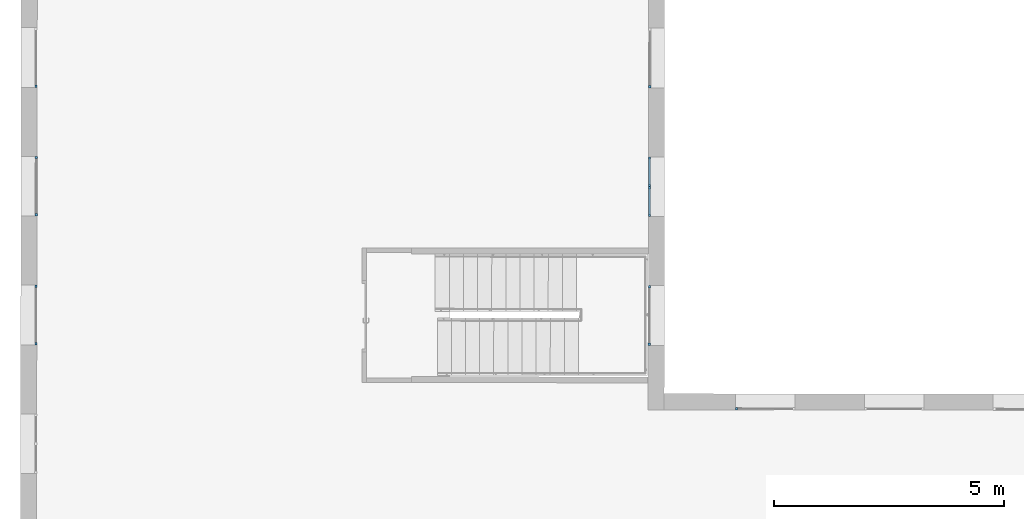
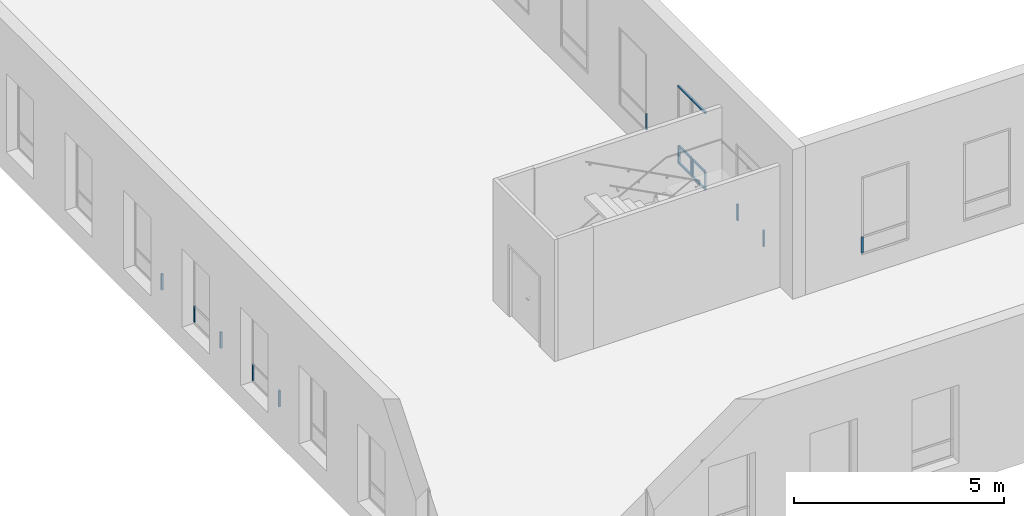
# One storey, part 15 of 35: 19 members, 8 elements without a shape of their own.
"""IFC2X3 building model written with IfcOpenShell, lengths in metres."""

from ifc_helpers import new_model, entity, si_unit, converted_unit, derived_unit, direction, frame, frame_2d, origin, origin_2d_with_axis, place, context, subcontext, project, spatial, rectangle, extrude, source, transform, mapped, material, type_object, type_shapes, element, aggregate, save


model = new_model("IFC2X3")

# Units and contexts
model_context = context("Model", 3, precision=1e-05, world=origin(), true_north=direction((6.123233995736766e-17, 1.0)))
body_context = subcontext(model_context, "Body", "Model", "MODEL_VIEW")
ifc_project = project(units=[si_unit("LENGTHUNIT", "METRE"), si_unit("AREAUNIT", "SQUARE_METRE"), converted_unit("PLANEANGLEUNIT", "DEGREE", entity("IfcPlaneAngleMeasure", 0.017453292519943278), si_unit("PLANEANGLEUNIT", "RADIAN"), dimensions=[0, 0, 0, 0, 0, 0, 0]), derived_unit("THERMALTRANSMITTANCEUNIT", [(si_unit("MASSUNIT", "GRAM", prefix="KILO"), 1), (si_unit("THERMODYNAMICTEMPERATUREUNIT", "KELVIN"), -1), (si_unit("TIMEUNIT", "SECOND"), -3)])], contexts=[model_context])

# Site, building, storey
site_placement = place(None, frame((1253.6752467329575, 2072.143113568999, 91.49999999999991), z_axis=(0.0, 0.0, 1.0), x_axis=(0.7237211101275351, 0.6900925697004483, 0.0)))
site = spatial("IfcSite", under=ifc_project, at=site_placement, Name="Surface", CompositionType="ELEMENT")
building_placement = place(site_placement, origin())
building = spatial("IfcBuilding", under=site, at=building_placement, CompositionType="ELEMENT")
storey_placement = place(building_placement, frame((0.0, 0.0, 3.549999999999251)))
storey = spatial("IfcBuildingStorey", under=building, at=storey_placement, Name="1-R+1", CompositionType="ELEMENT", Elevation=3.549999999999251)

# Curtain wall, member
curtain_wall_type = type_object("IfcCurtainWallType", Name="Mur-rideau:Menuiserie Ext 1F+1OB VERTIC", PredefinedType="NOTDEFINED")
curtain_wall_1_placement = place(storey_placement, frame((0.0, 0.0, -3.549999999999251)))
curtain_wall_1 = element("IfcCurtainWall", 1, at=curtain_wall_1_placement, inside=storey, type_object=curtain_wall_type, Name="Mur-rideau:Menuiserie Ext 1F+1OB VERTIC", ObjectType="Mur-rideau:Menuiserie Ext 1F+1OB VERTIC")
ifc_material = material(Name="OMD_Aluminium Men Ext")
member_type_1 = type_object("IfcMemberType", Name="Meneau rectangulaire:50x50", PredefinedType="MULLION", material=ifc_material)
shared_shape_1 = source(origin(), body_context, "Body", "SweptSolid", [
    extrude(rectangle(XDim=0.05, YDim=0.049999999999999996, at=origin_2d_with_axis()), frame((-0.025, 0.0, -0.4699999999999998), z_axis=(0.0, 0.0, 1.0), x_axis=(-1.0, 0.0, 0.0)), (0.0, 0.0, 1.0), 0.4699999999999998),
])
type_shapes(member_type_1, [shared_shape_1])
member_1_placement = place(curtain_wall_1_placement, frame((151.8210219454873, 12.235292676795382, 4.219999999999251), z_axis=(0.0, 0.0, -1.0), x_axis=(0.6911544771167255, 0.7227070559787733, 0.0)))
member_1 = element("IfcMember", 2, at=member_1_placement, type_object=member_type_1, material=ifc_material, Name="Meneau rectangulaire:50x50", ObjectType="Meneau rectangulaire:50x50", context=body_context, shape_type="MappedRepresentation", body=[
    mapped(shared_shape_1, transform((0.0, 0.0, 0.0), scale=1.0)),
])

curtain_wall_2_placement = place(storey_placement, frame((0.0, 0.0, -3.549999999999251)))
curtain_wall_2 = element("IfcCurtainWall", 3, at=curtain_wall_2_placement, inside=storey, type_object=curtain_wall_type, Name="Mur-rideau:Menuiserie Ext 1F+1OB VERTIC", ObjectType="Mur-rideau:Menuiserie Ext 1F+1OB VERTIC")
member_2_placement = place(curtain_wall_2_placement, frame((153.75577662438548, 14.25932931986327, 4.219999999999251), z_axis=(0.0, 0.0, -1.0), x_axis=(0.6911544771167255, 0.7227070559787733, 0.0)))
member_2 = element("IfcMember", 4, at=member_2_placement, type_object=member_type_1, material=ifc_material, Name="Meneau rectangulaire:50x50", ObjectType="Meneau rectangulaire:50x50", context=body_context, shape_type="MappedRepresentation", body=[
    mapped(shared_shape_1, transform((0.0, 0.0, 0.0), scale=1.0)),
])

curtain_wall_3_placement = place(storey_placement, frame((0.0, 0.0, -3.549999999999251)))
curtain_wall_3 = element("IfcCurtainWall", 5, at=curtain_wall_3_placement, inside=storey, type_object=curtain_wall_type, Name="Mur-rideau:Menuiserie Ext 1F+1OB VERTIC", ObjectType="Mur-rideau:Menuiserie Ext 1F+1OB VERTIC")
member_3_placement = place(curtain_wall_3_placement, frame((160.97019545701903, -0.2053462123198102, 4.219999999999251), z_axis=(0.0, 0.0, -1.0), x_axis=(-0.7228702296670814, 0.6909838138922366, 0.0)))
member_3 = element("IfcMember", 6, at=member_3_placement, type_object=member_type_1, material=ifc_material, Name="Meneau rectangulaire:50x50", ObjectType="Meneau rectangulaire:50x50", context=body_context, shape_type="MappedRepresentation", body=[
    mapped(shared_shape_1, transform((0.0, 0.0, 0.0), scale=1.0)),
])
aggregate(curtain_wall_3, [member_3])

# Member
member_type_2 = type_object("IfcMemberType", Name="Meneau rectangulaire:50x50", PredefinedType="MULLION", material=ifc_material)
shared_shape_2 = source(origin(), body_context, "Body", "SweptSolid", [
    extrude(rectangle(XDim=0.05, YDim=0.049999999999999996, at=origin_2d_with_axis()), frame((-0.025, 0.0, -0.4699999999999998), z_axis=(0.0, 0.0, 1.0), x_axis=(-1.0, 0.0, 0.0)), (0.0, 0.0, 1.0), 0.4699999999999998),
])
type_shapes(member_type_2, [shared_shape_2])
member_4_placement = place(curtain_wall_1_placement, frame((150.92273130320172, 11.295993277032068, 4.689999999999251), z_axis=(0.0, 0.0, 1.0), x_axis=(-0.6911544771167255, -0.7227070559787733, 0.0)))
member_4 = element("IfcMember", 7, at=member_4_placement, type_object=member_type_2, material=ifc_material, Name="Meneau rectangulaire:50x50", ObjectType="Meneau rectangulaire:50x50", context=body_context, shape_type="MappedRepresentation", body=[
    mapped(shared_shape_2, transform((0.0, 0.0, 0.0), scale=1.0)),
])

aggregate(curtain_wall_1, [member_1, member_4])

member_5_placement = place(curtain_wall_2_placement, frame((152.85748598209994, 13.320029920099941, 4.689999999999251), z_axis=(0.0, 0.0, 1.0), x_axis=(-0.6911544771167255, -0.7227070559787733, 0.0)))
member_5 = element("IfcMember", 8, at=member_5_placement, type_object=member_type_2, material=ifc_material, Name="Meneau rectangulaire:50x50", ObjectType="Meneau rectangulaire:50x50", context=body_context, shape_type="MappedRepresentation", body=[
    mapped(shared_shape_2, transform((0.0, 0.0, 0.0), scale=1.0)),
])

aggregate(curtain_wall_2, [member_2, member_5])

# Curtain wall, member
curtain_wall_4_placement = place(storey_placement, frame((0.0, 0.0, -3.549999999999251)))
curtain_wall_4 = element("IfcCurtainWall", 9, at=curtain_wall_4_placement, inside=storey, type_object=curtain_wall_type, Name="Mur-rideau:Menuiserie Ext 1F+1OB VERTIC", ObjectType="Mur-rideau:Menuiserie Ext 1F+1OB VERTIC")
member_6_placement = place(curtain_wall_4_placement, frame((154.78668807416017, 15.349381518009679, 4.689999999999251), z_axis=(0.0, 0.0, 1.0), x_axis=(-0.6911544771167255, -0.7227070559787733, 0.0)))
member_6 = element("IfcMember", 10, at=member_6_placement, type_object=member_type_2, material=ifc_material, Name="Meneau rectangulaire:50x50", ObjectType="Meneau rectangulaire:50x50", context=body_context, shape_type="MappedRepresentation", body=[
    mapped(shared_shape_2, transform((0.0, 0.0, 0.0), scale=1.0)),
])
aggregate(curtain_wall_4, [member_6])

curtain_wall_5_placement = place(storey_placement, frame((0.0, 0.0, -3.549999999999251)))
curtain_wall_5 = element("IfcCurtainWall", 11, at=curtain_wall_5_placement, inside=storey, type_object=curtain_wall_type, Name="Mur-rideau:Menuiserie Ext 1F+1OB VERTIC", ObjectType="Mur-rideau:Menuiserie Ext 1F+1OB VERTIC")
member_type_3 = type_object("IfcMemberType", Name="Meneau rectangulaire:50x50", PredefinedType="MULLION", material=ifc_material)
shared_shape_3 = source(origin(), body_context, "Body", "SweptSolid", [
    extrude(rectangle(XDim=0.05, YDim=0.049999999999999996, at=origin_2d_with_axis()), frame((-0.025, 0.0, -0.4699999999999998), z_axis=(0.0, 0.0, 1.0), x_axis=(-1.0, 0.0, 0.0)), (0.0, 0.0, 1.0), 0.4699999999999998),
])
type_shapes(member_type_3, [shared_shape_3])
member_7_placement = place(curtain_wall_5_placement, frame((161.46536443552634, 3.0218530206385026, 4.219999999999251), z_axis=(0.0, 0.0, -1.0), x_axis=(0.6909838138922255, 0.722870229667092, 0.0)))
member_7 = element("IfcMember", 12, at=member_7_placement, type_object=member_type_3, material=ifc_material, Name="Meneau rectangulaire:50x50", ObjectType="Meneau rectangulaire:50x50", context=body_context, shape_type="MappedRepresentation", body=[
    mapped(shared_shape_3, transform((0.0, 0.0, 0.0), scale=1.0)),
])

curtain_wall_6_placement = place(storey_placement, frame((0.0, 0.0, -3.549999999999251)))
curtain_wall_6 = element("IfcCurtainWall", 13, at=curtain_wall_6_placement, inside=storey, type_object=curtain_wall_type, Name="Mur-rideau:Menuiserie Ext 1F+1OB VERTIC", ObjectType="Mur-rideau:Menuiserie Ext 1F+1OB VERTIC")
member_8_placement = place(curtain_wall_6_placement, frame((162.95097963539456, 4.576024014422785, 4.219999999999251), z_axis=(0.0, 0.0, -1.0), x_axis=(0.6909838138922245, 0.722870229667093, 0.0)))
member_8 = element("IfcMember", 14, at=member_8_placement, type_object=member_type_3, material=ifc_material, Name="Meneau rectangulaire:50x50", ObjectType="Meneau rectangulaire:50x50", context=body_context, shape_type="MappedRepresentation", body=[
    mapped(shared_shape_3, transform((0.0, 0.0, 0.0), scale=1.0)),
])

curtain_wall_7_placement = place(storey_placement, frame((0.0, 0.0, -3.549999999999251)))
curtain_wall_7 = element("IfcCurtainWall", 15, at=curtain_wall_7_placement, inside=storey, type_object=curtain_wall_type, Name="Mur-rideau:Menuiserie Ext 1F+1OB VERTIC", ObjectType="Mur-rideau:Menuiserie Ext 1F+1OB VERTIC")
member_type_4 = type_object("IfcMemberType", Name="Meneau rectangulaire:50x50", PredefinedType="MULLION", material=ifc_material)
shared_shape_4 = source(origin(), body_context, "Body", "SweptSolid", [
    extrude(rectangle(XDim=0.05, YDim=0.05000000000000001, at=origin_2d_with_axis()), frame((-0.025, 0.0, -0.4699999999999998), z_axis=(0.0, 0.0, 1.0), x_axis=(-1.0, 0.0, 0.0)), (0.0, 0.0, 1.0), 0.4699999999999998),
])
type_shapes(member_type_4, [shared_shape_4])
member_9_placement = place(curtain_wall_7_placement, frame((164.43680496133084, 6.130414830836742, 4.689999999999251), z_axis=(0.0, 0.0, 1.0), x_axis=(-0.6909838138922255, -0.722870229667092, 0.0)))
member_9 = element("IfcMember", 16, at=member_9_placement, type_object=member_type_4, material=ifc_material, Name="Meneau rectangulaire:50x50", ObjectType="Meneau rectangulaire:50x50", context=body_context, shape_type="MappedRepresentation", body=[
    mapped(shared_shape_4, transform((0.0, 0.0, 0.0), scale=1.0)),
])
aggregate(curtain_wall_7, [member_9])

# Member
member_10_placement = place(curtain_wall_5_placement, frame((160.56729560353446, 2.0823415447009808, 4.689999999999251), z_axis=(0.0, 0.0, 1.0), x_axis=(-0.6909838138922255, -0.722870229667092, 0.0)))
member_10 = element("IfcMember", 17, at=member_10_placement, type_object=member_type_4, material=ifc_material, Name="Meneau rectangulaire:50x50", ObjectType="Meneau rectangulaire:50x50", context=body_context, shape_type="MappedRepresentation", body=[
    mapped(shared_shape_4, transform((0.0, 0.0, 0.0), scale=1.0)),
])

aggregate(curtain_wall_5, [member_7, member_10])

member_11_placement = place(curtain_wall_6_placement, frame((162.50205028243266, 4.106378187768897, 4.689999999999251), z_axis=(0.0, 0.0, 1.0), x_axis=(-0.6909838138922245, -0.722870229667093, 0.0)))
member_11 = element("IfcMember", 18, at=member_11_placement, type_object=member_type_4, material=ifc_material, Name="Meneau rectangulaire:50x50", ObjectType="Meneau rectangulaire:50x50", context=body_context, shape_type="MappedRepresentation", body=[
    mapped(shared_shape_4, transform((0.0, 0.0, 0.0), scale=1.0)),
])

member_type_5 = type_object("IfcMemberType", Name="Meneau rectangulaire:50x50", PredefinedType="MULLION", material=ifc_material)
shared_shape_5 = source(origin(), body_context, "Body", "SweptSolid", [
    extrude(rectangle(XDim=0.05, YDim=0.05000000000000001, at=origin_2d_with_axis()), frame((-0.025, 0.0, -0.6496959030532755), z_axis=(0.0, 0.0, 1.0), x_axis=(-1.0, 0.0, 0.0)), (0.0, 0.0, 1.0), 0.6496959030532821),
])
type_shapes(member_type_5, [shared_shape_5])
member_12_placement = place(curtain_wall_6_placement, frame((162.95097963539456, 4.576024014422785, 6.4499999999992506), z_axis=(0.6909838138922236, 0.7228702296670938, 0.0), x_axis=(0.0, 0.0, 1.0)))
member_12 = element("IfcMember", 19, at=member_12_placement, type_object=member_type_5, material=ifc_material, Name="Meneau rectangulaire:50x50", ObjectType="Meneau rectangulaire:50x50", context=body_context, shape_type="MappedRepresentation", body=[
    mapped(shared_shape_5, transform((0.0, 0.0, 0.0), scale=1.0)),
])

member_type_6 = type_object("IfcMemberType", Name="Meneau rectangulaire:50x50", PredefinedType="MULLION", material=ifc_material)
shared_shape_6 = source(origin(), body_context, "Body", "SweptSolid", [
    extrude(rectangle(XDim=0.05, YDim=0.05, at=origin_2d_with_axis()), frame((-0.025, 0.0, -0.6496959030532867), z_axis=(0.0, 0.0, 1.0), x_axis=(-1.0, 0.0, 0.0)), (0.0, 0.0, 1.0), 0.6496959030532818),
])
type_shapes(member_type_6, [shared_shape_6])
member_13_placement = place(curtain_wall_6_placement, frame((162.50205028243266, 4.106378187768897, 4.169999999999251), z_axis=(-0.6909838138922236, -0.7228702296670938, 0.0), x_axis=(0.0, 0.0, -1.0)))
member_13 = element("IfcMember", 20, at=member_13_placement, type_object=member_type_6, material=ifc_material, Name="Meneau rectangulaire:50x50", ObjectType="Meneau rectangulaire:50x50", context=body_context, shape_type="MappedRepresentation", body=[
    mapped(shared_shape_6, transform((0.0, 0.0, 0.0), scale=1.0)),
])

member_type_7 = type_object("IfcMemberType", Name="Meneau rectangulaire:50x50", PredefinedType="MULLION", material=ifc_material)
shared_shape_7 = source(origin(), body_context, "Body", "SweptSolid", [
    extrude(rectangle(XDim=0.05, YDim=0.05, at=frame_2d((0.0, -1.734723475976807e-18), x_axis=(1.0, 0.0))), frame((0.0, 0.0, -0.5496959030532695), z_axis=(0.0, 0.0, 1.0), x_axis=(-1.0, 0.0, 0.0)), (0.0, 0.0, 1.0), 0.549695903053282),
])
type_shapes(member_type_7, [shared_shape_7])
member_14_placement = place(curtain_wall_6_placement, frame((162.91643044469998, 4.53988050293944, 4.689999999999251), z_axis=(0.6909838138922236, 0.7228702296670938, 0.0), x_axis=(0.0, 0.0, 1.0)))
member_14 = element("IfcMember", 21, at=member_14_placement, type_object=member_type_7, material=ifc_material, Name="Meneau rectangulaire:50x50", ObjectType="Meneau rectangulaire:50x50", context=body_context, shape_type="MappedRepresentation", body=[
    mapped(shared_shape_7, transform((0.0, 0.0, 0.0), scale=1.0)),
])

aggregate(curtain_wall_6, [member_12, member_13, member_8, member_11, member_14])

# Curtain wall, members
curtain_wall_8_placement = place(storey_placement, frame((0.0, 0.0, -3.549999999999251)))
curtain_wall_8 = element("IfcCurtainWall", 22, at=curtain_wall_8_placement, inside=storey, type_object=curtain_wall_type, Name="Mur-rideau:Menuiserie Ext 1F+1OB VERTIC", ObjectType="Mur-rideau:Menuiserie Ext 1F+1OB VERTIC")
member_type_8 = type_object("IfcMemberType", Name="Meneau rectangulaire:50x50", PredefinedType="MULLION", material=ifc_material)
shared_shape_8 = source(origin(), body_context, "Body", "SweptSolid", [
    extrude(rectangle(XDim=0.05, YDim=0.05000000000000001, at=origin_2d_with_axis()), frame((-0.025, 0.0, -0.6500000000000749), z_axis=(0.0, 0.0, 1.0), x_axis=(-1.0, 0.0, 0.0)), (0.0, 0.0, 1.0), 0.6500000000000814),
])
type_shapes(member_type_8, [shared_shape_8])
member_15_placement = place(curtain_wall_8_placement, frame((162.95097963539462, 4.576024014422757, 6.4499999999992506), z_axis=(-0.6909838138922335, -0.7228702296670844, 0.0), x_axis=(0.0, 0.0, 1.0)))
member_15 = element("IfcMember", 23, at=member_15_placement, type_object=member_type_8, material=ifc_material, Name="Meneau rectangulaire:50x50", ObjectType="Meneau rectangulaire:50x50", context=body_context, shape_type="MappedRepresentation", body=[
    mapped(shared_shape_8, transform((0.0, 0.0, 0.0), scale=1.0)),
])
member_type_9 = type_object("IfcMemberType", Name="Meneau rectangulaire:50x50", PredefinedType="MULLION", material=ifc_material)
shared_shape_9 = source(origin(), body_context, "Body", "SweptSolid", [
    extrude(rectangle(XDim=0.05, YDim=0.05, at=origin_2d_with_axis()), frame((-0.025, 0.0, -0.6500000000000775), z_axis=(0.0, 0.0, 1.0), x_axis=(-1.0, 0.0, 0.0)), (0.0, 0.0, 1.0), 0.6500000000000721),
])
type_shapes(member_type_9, [shared_shape_9])
member_16_placement = place(curtain_wall_8_placement, frame((163.40011911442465, 5.045889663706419, 4.169999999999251), z_axis=(0.6909838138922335, 0.7228702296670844, 0.0), x_axis=(0.0, 0.0, -1.0)))
member_16 = element("IfcMember", 24, at=member_16_placement, type_object=member_type_9, material=ifc_material, Name="Meneau rectangulaire:50x50", ObjectType="Meneau rectangulaire:50x50", context=body_context, shape_type="MappedRepresentation", body=[
    mapped(shared_shape_9, transform((0.0, 0.0, 0.0), scale=1.0)),
])
member_type_10 = type_object("IfcMemberType", Name="Meneau rectangulaire:50x50", PredefinedType="MULLION", material=ifc_material)
shared_shape_10 = source(origin(), body_context, "Body", "SweptSolid", [
    extrude(rectangle(XDim=0.05, YDim=0.049999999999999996, at=origin_2d_with_axis()), frame((-0.025, 0.0, -0.4699999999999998), z_axis=(0.0, 0.0, 1.0), x_axis=(-1.0, 0.0, 0.0)), (0.0, 0.0, 1.0), 0.4699999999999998),
])
type_shapes(member_type_10, [shared_shape_10])
member_17_placement = place(curtain_wall_8_placement, frame((162.95097963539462, 4.576024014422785, 4.219999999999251), z_axis=(0.0, 0.0, -1.0), x_axis=(-0.6909838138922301, -0.7228702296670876, 0.0)))
member_17 = element("IfcMember", 25, at=member_17_placement, type_object=member_type_10, material=ifc_material, Name="Meneau rectangulaire:50x50", ObjectType="Meneau rectangulaire:50x50", context=body_context, shape_type="MappedRepresentation", body=[
    mapped(shared_shape_10, transform((0.0, 0.0, 0.0), scale=1.0)),
])
member_type_11 = type_object("IfcMemberType", Name="Meneau rectangulaire:50x50", PredefinedType="MULLION", material=ifc_material)
shared_shape_11 = source(origin(), body_context, "Body", "SweptSolid", [
    extrude(rectangle(XDim=0.05, YDim=0.05, at=origin_2d_with_axis()), frame((-0.025, 0.0, -0.4699999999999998), z_axis=(0.0, 0.0, 1.0), x_axis=(-1.0, 0.0, 0.0)), (0.0, 0.0, 1.0), 0.4699999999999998),
])
type_shapes(member_type_11, [shared_shape_11])
member_18_placement = place(curtain_wall_8_placement, frame((163.40011911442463, 5.045889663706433, 4.689999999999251), z_axis=(0.0, 0.0, 1.0), x_axis=(0.6909838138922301, 0.7228702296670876, 0.0)))
member_18 = element("IfcMember", 26, at=member_18_placement, type_object=member_type_11, material=ifc_material, Name="Meneau rectangulaire:50x50", ObjectType="Meneau rectangulaire:50x50", context=body_context, shape_type="MappedRepresentation", body=[
    mapped(shared_shape_11, transform((0.0, 0.0, 0.0), scale=1.0)),
])
member_type_12 = type_object("IfcMemberType", Name="Meneau rectangulaire:50x50", PredefinedType="MULLION", material=ifc_material)
shared_shape_12 = source(origin(), body_context, "Body", "SweptSolid", [
    extrude(rectangle(XDim=0.05, YDim=0.05, at=origin_2d_with_axis()), frame((0.0, 0.0, -0.550000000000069), z_axis=(0.0, 0.0, 1.0), x_axis=(-1.0, 0.0, 0.0)), (0.0, 0.0, 1.0), 0.5500000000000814),
])
type_shapes(member_type_12, [shared_shape_12])
member_19_placement = place(curtain_wall_8_placement, frame((162.98552882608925, 4.6121675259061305, 4.689999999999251), z_axis=(-0.6909838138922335, -0.7228702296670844, 0.0), x_axis=(0.0, 0.0, 1.0)))
member_19 = element("IfcMember", 27, at=member_19_placement, type_object=member_type_12, material=ifc_material, Name="Meneau rectangulaire:50x50", ObjectType="Meneau rectangulaire:50x50", context=body_context, shape_type="MappedRepresentation", body=[
    mapped(shared_shape_12, transform((0.0, 0.0, 0.0), scale=1.0)),
])
aggregate(curtain_wall_8, [member_15, member_16, member_17, member_18, member_19])

save(model, "model.ifc")
